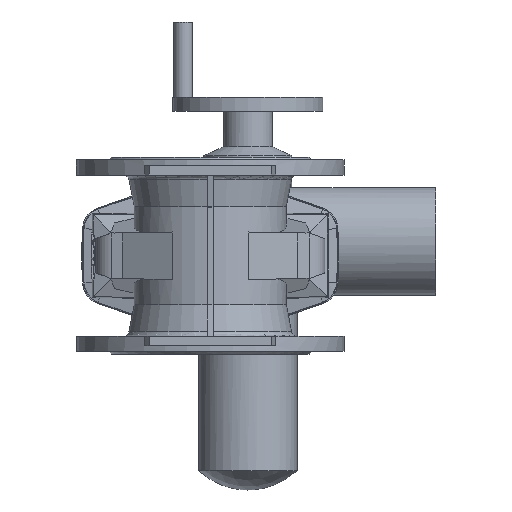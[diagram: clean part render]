
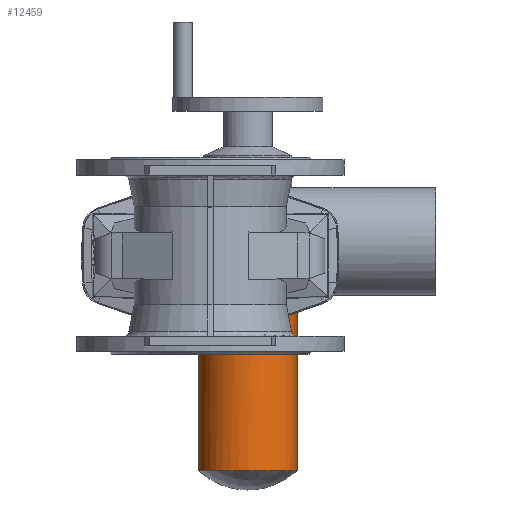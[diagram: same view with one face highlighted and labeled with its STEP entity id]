
A CAD part, front view. The second image highlights one B-rep face of the part: STEP entity #12459.
In plain terms, the highlighted cylindrical face has radius 52.5 mm (diameter 105 mm), a full revolution.
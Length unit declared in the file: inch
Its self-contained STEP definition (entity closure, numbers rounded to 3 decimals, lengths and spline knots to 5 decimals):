
#1207 = EDGE_LOOP ( 'NONE', ( #2252 ) ) ;
#1217 = EDGE_LOOP ( 'NONE', ( #2253, #2254 ) ) ;
#2153 = VERTEX_POINT ( 'NONE', #10471 ) ;
#2252 = ORIENTED_EDGE ( 'NONE', *, *, #9885, .T. ) ;
#2253 = ORIENTED_EDGE ( 'NONE', *, *, #9886, .F. ) ;
#2254 = ORIENTED_EDGE ( 'NONE', *, *, #9887, .T. ) ;
#2289 = VERTEX_POINT ( 'NONE', #10096 ) ;
#3073 = AXIS2_PLACEMENT_3D ( 'NONE', #6309, #6310, #6311 ) ;
#3074 = AXIS2_PLACEMENT_3D ( 'NONE', #6313, #6314, #6315 ) ;
#3148 = AXIS2_PLACEMENT_3D ( 'NONE', #7011, #7007, #7008 ) ;
#5026 = B_SPLINE_CURVE_WITH_KNOTS ( 'NONE', 3,
 ( #6308, #6312, #6316, #6317, #6318, #6319, #6320, #6321, #6322, #6323, #6324, #6325, #6326, #6327, #6328, #6329, #6330, #6331, #6332, #6333, #6334, #6335, #6336, #6337, #6338, #6339, #6340, #6341, #6342, #6343, #6344, #6345, #6346, #6347, #6348, #6349, #6350, #6351, #6352, #6353, #6354, #6355, #6356, #6357, #6358, #6359, #6360, #6361, #6362, #6363 ),
 .UNSPECIFIED., .F., .F.,
 ( 4, 2, 2, 2, 2, 2, 2, 2, 2, 2, 2, 2, 2, 2, 2, 2, 2, 2, 2, 2, 2, 2, 2, 2, 4 ),
 ( 0.13161, 0.13526, 0.13891, 0.14621, 0.14987, 0.15352, 0.16082, 0.16447, 0.16812, 0.17543, 0.17908, 0.1809, 0.18273, 0.19003, 0.19734, 0.20464, 0.21194, 0.21377, 0.2156, 0.21925, 0.22655, 0.2302, 0.23385, 0.24116, 0.24846 ),
 .UNSPECIFIED. ) ;
#6308 = CARTESIAN_POINT ( 'NONE',  ( 0.66926, 15.58294, -2.36787 ) ) ;
#6309 = CARTESIAN_POINT ( 'NONE',  ( 1.5748, 17.44094, -9.01387 ) ) ;
#6310 = DIRECTION ( 'NONE',  ( 0., 0., 1. ) ) ;
#6311 = DIRECTION ( 'NONE',  ( 1., 0., 0. ) ) ;
#6312 = CARTESIAN_POINT ( 'NONE',  ( 0.62708, 15.60349, -2.37979 ) ) ;
#6313 = CARTESIAN_POINT ( 'NONE',  ( 1.5748, 17.44094, -2.36787 ) ) ;
#6314 = DIRECTION ( 'NONE',  ( 0., 0., 1. ) ) ;
#6315 = DIRECTION ( 'NONE',  ( 1., 0., 0. ) ) ;
#6316 = CARTESIAN_POINT ( 'NONE',  ( 0.58486, 15.62588, -2.39049 ) ) ;
#6317 = CARTESIAN_POINT ( 'NONE',  ( 0.5023, 15.67341, -2.40919 ) ) ;
#6318 = CARTESIAN_POINT ( 'NONE',  ( 0.46185, 15.69859, -2.41723 ) ) ;
#6319 = CARTESIAN_POINT ( 'NONE',  ( 0.34306, 15.77838, -2.43792 ) ) ;
#6320 = CARTESIAN_POINT ( 'NONE',  ( 0.26727, 15.83722, -2.44714 ) ) ;
#6321 = CARTESIAN_POINT ( 'NONE',  ( 0.15912, 15.93417, -2.45575 ) ) ;
#6322 = CARTESIAN_POINT ( 'NONE',  ( 0.1239, 15.96804, -2.45774 ) ) ;
#6323 = CARTESIAN_POINT ( 'NONE',  ( 0.05644, 16.03769, -2.46021 ) ) ;
#6324 = CARTESIAN_POINT ( 'NONE',  ( 0.02406, 16.07357, -2.46071 ) ) ;
#6325 = CARTESIAN_POINT ( 'NONE',  ( -0.06907, 16.18429, -2.46044 ) ) ;
#6326 = CARTESIAN_POINT ( 'NONE',  ( -0.12584, 16.26222, -2.45795 ) ) ;
#6327 = CARTESIAN_POINT ( 'NONE',  ( -0.20293, 16.38539, -2.45238 ) ) ;
#6328 = CARTESIAN_POINT ( 'NONE',  ( -0.22735, 16.42764, -2.45021 ) ) ;
#6329 = CARTESIAN_POINT ( 'NONE',  ( -0.27285, 16.5132, -2.44556 ) ) ;
#6330 = CARTESIAN_POINT ( 'NONE',  ( -0.29399, 16.55657, -2.44308 ) ) ;
#6331 = CARTESIAN_POINT ( 'NONE',  ( -0.35268, 16.68845, -2.43554 ) ) ;
#6332 = CARTESIAN_POINT ( 'NONE',  ( -0.38554, 16.77871, -2.43039 ) ) ;
#6333 = CARTESIAN_POINT ( 'NONE',  ( -0.42538, 16.91769, -2.42362 ) ) ;
#6334 = CARTESIAN_POINT ( 'NONE',  ( -0.43708, 16.96462, -2.42152 ) ) ;
#6335 = CARTESIAN_POINT ( 'NONE',  ( -0.4522, 17.03593, -2.41873 ) ) ;
#6336 = CARTESIAN_POINT ( 'NONE',  ( -0.45684, 17.05986, -2.41785 ) ) ;
#6337 = CARTESIAN_POINT ( 'NONE',  ( -0.46522, 17.10764, -2.41626 ) ) ;
#6338 = CARTESIAN_POINT ( 'NONE',  ( -0.46898, 17.13154, -2.41553 ) ) ;
#6339 = CARTESIAN_POINT ( 'NONE',  ( -0.48566, 17.25112, -2.41227 ) ) ;
#6340 = CARTESIAN_POINT ( 'NONE',  ( -0.49222, 17.34699, -2.4109 ) ) ;
#6341 = CARTESIAN_POINT ( 'NONE',  ( -0.49203, 17.53911, -2.41094 ) ) ;
#6342 = CARTESIAN_POINT ( 'NONE',  ( -0.48526, 17.63539, -2.41235 ) ) ;
#6343 = CARTESIAN_POINT ( 'NONE',  ( -0.45785, 17.82827, -2.4177 ) ) ;
#6344 = CARTESIAN_POINT ( 'NONE',  ( -0.43753, 17.92256, -2.42157 ) ) ;
#6345 = CARTESIAN_POINT ( 'NONE',  ( -0.3842, 18.10707, -2.4306 ) ) ;
#6346 = CARTESIAN_POINT ( 'NONE',  ( -0.35119, 18.19729, -2.43576 ) ) ;
#6347 = CARTESIAN_POINT ( 'NONE',  ( -0.30185, 18.30752, -2.44207 ) ) ;
#6348 = CARTESIAN_POINT ( 'NONE',  ( -0.29157, 18.32944, -2.44332 ) ) ;
#6349 = CARTESIAN_POINT ( 'NONE',  ( -0.2702, 18.37302, -2.44577 ) ) ;
#6350 = CARTESIAN_POINT ( 'NONE',  ( -0.25908, 18.3947, -2.44698 ) ) ;
#6351 = CARTESIAN_POINT ( 'NONE',  ( -0.22475, 18.45886, -2.45045 ) ) ;
#6352 = CARTESIAN_POINT ( 'NONE',  ( -0.20049, 18.5006, -2.45258 ) ) ;
#6353 = CARTESIAN_POINT ( 'NONE',  ( -0.12362, 18.62282, -2.45806 ) ) ;
#6354 = CARTESIAN_POINT ( 'NONE',  ( -0.06698, 18.70031, -2.4605 ) ) ;
#6355 = CARTESIAN_POINT ( 'NONE',  ( 0.02606, 18.81058, -2.46069 ) ) ;
#6356 = CARTESIAN_POINT ( 'NONE',  ( 0.05842, 18.84634, -2.46017 ) ) ;
#6357 = CARTESIAN_POINT ( 'NONE',  ( 0.12592, 18.91583, -2.45764 ) ) ;
#6358 = CARTESIAN_POINT ( 'NONE',  ( 0.16121, 18.94969, -2.45561 ) ) ;
#6359 = CARTESIAN_POINT ( 'NONE',  ( 0.26942, 19.04641, -2.44691 ) ) ;
#6360 = CARTESIAN_POINT ( 'NONE',  ( 0.34504, 19.10494, -2.43763 ) ) ;
#6361 = CARTESIAN_POINT ( 'NONE',  ( 0.50254, 19.21053, -2.41009 ) ) ;
#6362 = CARTESIAN_POINT ( 'NONE',  ( 0.58444, 19.25761, -2.39184 ) ) ;
#6363 = CARTESIAN_POINT ( 'NONE',  ( 0.66926, 19.29895, -2.36787 ) ) ;
#7007 = DIRECTION ( 'NONE',  ( 0., 0., 1. ) ) ;
#7008 = DIRECTION ( 'NONE',  ( 1., 0., 0. ) ) ;
#7011 = CARTESIAN_POINT ( 'NONE',  ( 1.5748, 17.44094, 0.59055 ) ) ;
#8506 = CARTESIAN_POINT ( 'NONE',  ( 3.64173, 17.44094, -9.01387 ) ) ;
#9885 = EDGE_CURVE ( 'NONE', #12074, #12074, #11249, .T. ) ;
#9886 = EDGE_CURVE ( 'NONE', #2153, #2289, #11265, .T. ) ;
#9887 = EDGE_CURVE ( 'NONE', #2153, #2289, #5026, .T. ) ;
#10096 = CARTESIAN_POINT ( 'NONE',  ( 0.66926, 19.29895, -2.36787 ) ) ;
#10471 = CARTESIAN_POINT ( 'NONE',  ( 0.66926, 15.58294, -2.36787 ) ) ;
#11249 = CIRCLE ( 'NONE', #3073, 2.06693 ) ;
#11265 = CIRCLE ( 'NONE', #3074, 2.06693 ) ;
#11517 = FACE_OUTER_BOUND ( 'NONE', #1207, .T. ) ;
#11520 = FACE_OUTER_BOUND ( 'NONE', #1217, .T. ) ;
#11522 = CYLINDRICAL_SURFACE ( 'NONE', #3148, 2.06693 ) ;
#12074 = VERTEX_POINT ( 'NONE', #8506 ) ;
#12459 = ADVANCED_FACE ( 'NONE', ( #11517, #11520 ), #11522, .T. ) ;
